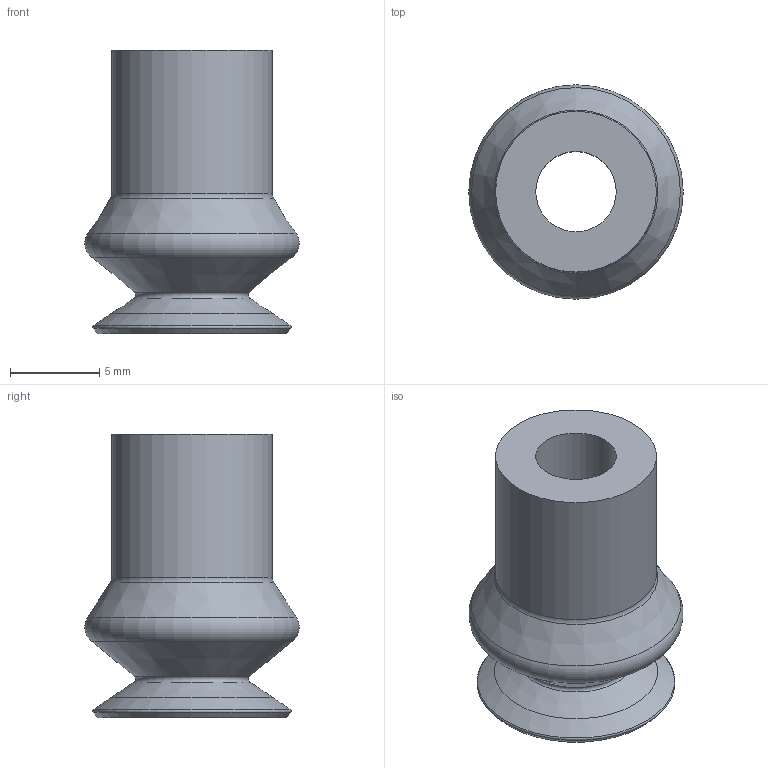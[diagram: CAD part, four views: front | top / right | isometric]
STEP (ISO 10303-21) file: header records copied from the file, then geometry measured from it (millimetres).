
FILE_DESCRIPTION(('STEP AP214'),'1');
FILE_NAME('CA.08.01.001.stp','2019-04-17T12:56:13',(' '),(' '),'Spatial InterOp 3D',' ',' ');
FILE_SCHEMA(('AUTOMOTIVE_DESIGN { 1 0 10303 214 1 1 1 1 }'));
Length unit declared in the file: millimetre
Products named in the file (1): CA.08.01.001
Bounding box: 12 x 12 x 15.86 mm (x, y, z)
Volume: 538.4 mm3; surface area: 1005.1 mm2
Topology: 1 solids, 1 shells, 20 faces, 45 edges, 27 vertices
Faces by surface type: cone 11, torus 4, plane 2, cylinder 2, bspline 1
Full cylindrical faces by diameter (mm): 4.5 x1, 9 x1
Entity records: 607 total; most frequent: CARTESIAN_POINT 88, DIRECTION 80, AXIS2_PLACEMENT_3D 40, EDGE_LOOP 40, ORIENTED_EDGE 40, FACE_OUTER_BOUND 27, STYLED_ITEM 20, PRESENTATION_STYLE_ASSIGNMENT 20
